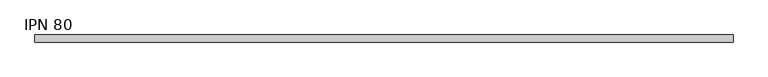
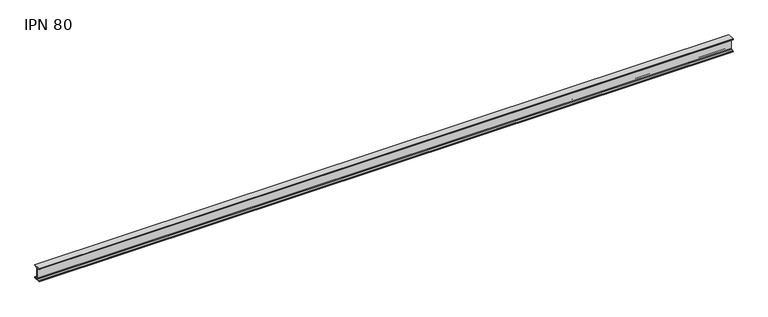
"""IFC4 building model written with IfcOpenShell, lengths in millimetres: beam geometry, IPN - Secciones en I con alas cónicas : IPN 80."""

from ifc_helpers import new_model, si_unit, point, frame, frame_2d, origin, place, context, project, spatial, polyline, circle_curve, trimmed, segment, composite_curve, outline, extrude, source, transform, mapped, element, save


def ipn_80_22a54eec(model_context):
    return source(origin(), model_context, "Body", "SweptSolid", [
        extrude(outline(composite_curve([segment(polyline([(-21.0, 40.0), (21.0, 40.0), (21.0, 37.5704306)]), True, "CONTINUOUS"), segment(trimmed(circle_curve(frame_2d((18.7, 37.5704306)), 2.3), [point((21.0, 37.5704306))], [point((19.01889, 35.2926446))], False, "CARTESIAN"), True, "CONTINUOUS"), segment(polyline([(19.01889, 35.2926446), (5.3092734, 33.3732983)]), True, "CONTINUOUS"), segment(trimmed(circle_curve(frame_2d((5.85, 29.5109655)), 3.9), [point((5.3092734, 33.3732983))], [point((1.95, 29.5109655))], True, "CARTESIAN"), True, "CONTINUOUS"), segment(polyline([(1.95, 29.5109655), (1.95, -29.5109655)]), True, "CONTINUOUS"), segment(trimmed(circle_curve(frame_2d((5.85, -29.5109655)), 3.9), [point((1.95, -29.5109655))], [point((5.3092734, -33.3732983))], True, "CARTESIAN"), True, "CONTINUOUS"), segment(polyline([(5.3092734, -33.3732983), (19.01889, -35.2926446)]), True, "CONTINUOUS"), segment(trimmed(circle_curve(frame_2d((18.7, -37.5704306)), 2.3), [point((19.01889, -35.2926446))], [point((21.0, -37.5704306))], False, "CARTESIAN"), True, "CONTINUOUS"), segment(polyline([(21.0, -37.5704306), (21.0, -40.0), (-21.0, -40.0), (-21.0, -37.5704306)]), True, "CONTINUOUS"), segment(trimmed(circle_curve(frame_2d((-18.7, -37.5704306)), 2.3), [point((-21.0, -37.5704306))], [point((-19.01889, -35.2926446))], False, "CARTESIAN"), True, "CONTINUOUS"), segment(polyline([(-19.01889, -35.2926446), (-5.3092734, -33.3732983)]), True, "CONTINUOUS"), segment(trimmed(circle_curve(frame_2d((-5.85, -29.5109655)), 3.9), [point((-5.3092734, -33.3732983))], [point((-1.95, -29.5109655))], True, "CARTESIAN"), True, "CONTINUOUS"), segment(polyline([(-1.95, -29.5109655), (-1.95, 29.5109655)]), True, "CONTINUOUS"), segment(trimmed(circle_curve(frame_2d((-5.85, 29.5109655)), 3.9), [point((-1.95, 29.5109655))], [point((-5.3092734, 33.3732983))], True, "CARTESIAN"), True, "CONTINUOUS"), segment(polyline([(-5.3092734, 33.3732983), (-19.01889, 35.2926446)]), True, "CONTINUOUS"), segment(trimmed(circle_curve(frame_2d((-18.7, 37.5704306)), 2.3), [point((-19.01889, 35.2926446))], [point((-21.0, 37.5704306))], False, "CARTESIAN"), True, "CONTINUOUS"), segment(polyline([(-21.0, 37.5704306), (-21.0, 40.0)]), True, "CONTINUOUS")], self_intersect=False)), frame((-2060.35, 0.0, 0.0), z_axis=(1.0, 0.0, 0.0), x_axis=(0.0, 1.0, 0.0)), (0.0, 0.0, 1.0), 4093.85),
    ])


if __name__ == "__main__":
    model = new_model("IFC4")
    model_context = context("Model", 3, world=origin())
    ifc_project = project(units=[si_unit("LENGTHUNIT", "METRE", prefix="MILLI")], contexts=[model_context])
    site = spatial("IfcSite", under=ifc_project)
    building = spatial("IfcBuilding", under=site)
    placement = place(None, origin())
    ipn_80_shape = ipn_80_22a54eec(model_context)
    element("IfcBeam", 1, ObjectType="IPN - Secciones en I con alas cónicas : IPN 80", at=placement, inside=building, context=model_context, shape_type="MappedRepresentation", body=[
        mapped(ipn_80_shape, transform((0.0, 0.0, 0.0), x_axis=(1.0, 0.0, 0.0), y_axis=(0.0, 1.0, 0.0), z_axis=(0.0, 0.0, 1.0))),
    ])
    save(model, "model.ifc")
